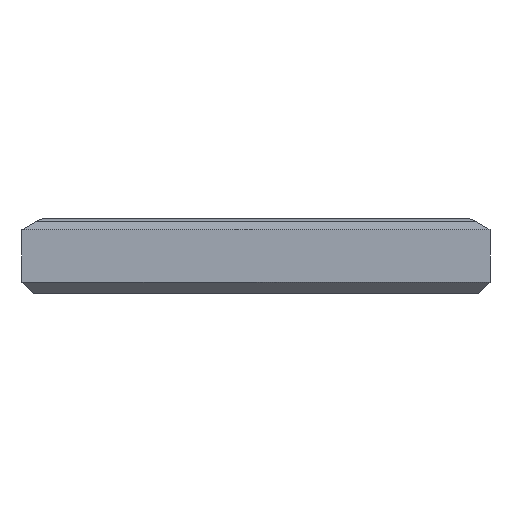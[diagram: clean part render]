
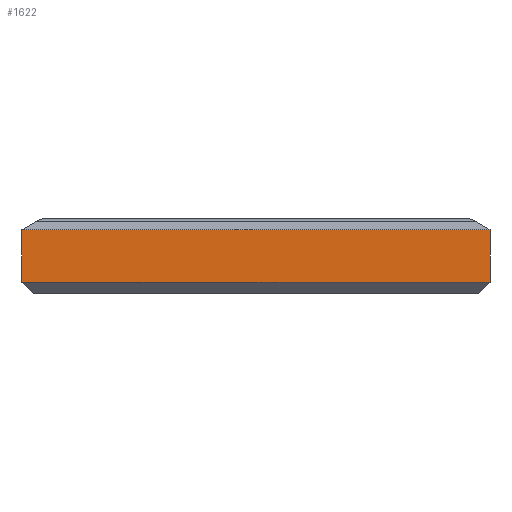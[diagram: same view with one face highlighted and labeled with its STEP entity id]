
A CAD part, front view. The second image highlights one B-rep face of the part: STEP entity #1622.
In plain terms, the highlighted planar face has unit normal (0, -1, 0).
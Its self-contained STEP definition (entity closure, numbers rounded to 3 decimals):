
#90 = EDGE_CURVE ( 'NONE', #3498, #1355, #672, .T. ) ;
#179 = EDGE_CURVE ( 'NONE', #1355, #1704, #2586, .T. ) ;
#209 = CARTESIAN_POINT ( 'NONE',  ( 62.5, 0., 17. ) ) ;
#305 = CARTESIAN_POINT ( 'NONE',  ( 125., 0., 3. ) ) ;
#444 = VECTOR ( 'NONE', #886, 1000. ) ;
#672 = LINE ( 'NONE', #2312, #3705 ) ;
#700 = ORIENTED_EDGE ( 'NONE', *, *, #2340, .F. ) ;
#769 = CARTESIAN_POINT ( 'NONE',  ( 0., 0., 3. ) ) ;
#821 = ORIENTED_EDGE ( 'NONE', *, *, #179, .T. ) ;
#886 = DIRECTION ( 'NONE',  ( 0., 0., 1. ) ) ;
#937 = PLANE ( 'NONE',  #1700 ) ;
#1074 = VECTOR ( 'NONE', #4880, 1000. ) ;
#1355 = VERTEX_POINT ( 'NONE', #305 ) ;
#1454 = VECTOR ( 'NONE', #4357, 1000. ) ;
#1531 = CARTESIAN_POINT ( 'NONE',  ( 0., 0., 17. ) ) ;
#1622 = ADVANCED_FACE ( 'NONE', ( #4126 ), #937, .T. ) ;
#1700 = AXIS2_PLACEMENT_3D ( 'NONE', #2103, #2432, #2452 ) ;
#1704 = VERTEX_POINT ( 'NONE', #2318 ) ;
#2103 = CARTESIAN_POINT ( 'NONE',  ( 0., 0., 0. ) ) ;
#2251 = DIRECTION ( 'NONE',  ( 1., 0., 0. ) ) ;
#2312 = CARTESIAN_POINT ( 'NONE',  ( 62.5, 0., 3. ) ) ;
#2318 = CARTESIAN_POINT ( 'NONE',  ( 125., 0., 17. ) ) ;
#2340 = EDGE_CURVE ( 'NONE', #3498, #3401, #4605, .T. ) ;
#2432 = DIRECTION ( 'NONE',  ( 0., -1., 0. ) ) ;
#2452 = DIRECTION ( 'NONE',  ( 0., 0., -1. ) ) ;
#2569 = EDGE_CURVE ( 'NONE', #3401, #1704, #3103, .T. ) ;
#2586 = LINE ( 'NONE', #2919, #1454 ) ;
#2728 = ORIENTED_EDGE ( 'NONE', *, *, #90, .T. ) ;
#2919 = CARTESIAN_POINT ( 'NONE',  ( 125., 0., 10. ) ) ;
#3103 = LINE ( 'NONE', #209, #1074 ) ;
#3401 = VERTEX_POINT ( 'NONE', #1531 ) ;
#3424 = EDGE_LOOP ( 'NONE', ( #821, #3863, #700, #2728 ) ) ;
#3498 = VERTEX_POINT ( 'NONE', #769 ) ;
#3705 = VECTOR ( 'NONE', #2251, 1000. ) ;
#3863 = ORIENTED_EDGE ( 'NONE', *, *, #2569, .F. ) ;
#4126 = FACE_OUTER_BOUND ( 'NONE', #3424, .T. ) ;
#4357 = DIRECTION ( 'NONE',  ( 0., 0., 1. ) ) ;
#4416 = CARTESIAN_POINT ( 'NONE',  ( 0., 0., 10. ) ) ;
#4605 = LINE ( 'NONE', #4416, #444 ) ;
#4880 = DIRECTION ( 'NONE',  ( 1., 0., 0. ) ) ;
